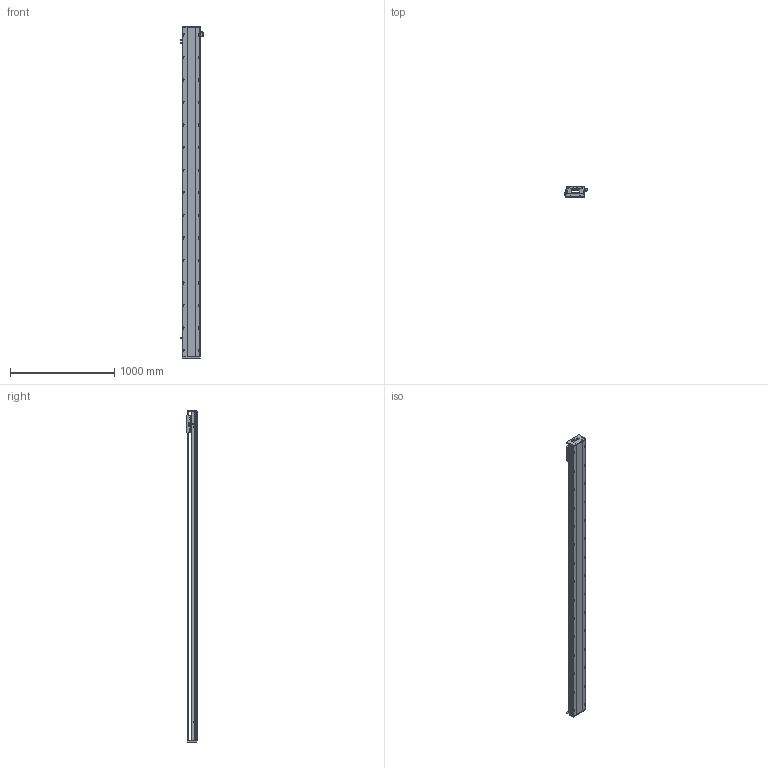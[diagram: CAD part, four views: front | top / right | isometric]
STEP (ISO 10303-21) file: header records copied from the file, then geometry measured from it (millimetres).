
FILE_DESCRIPTION (( 'STEP AP203' ), '1' );
FILE_NAME ('SKR17S-C1-S2910（简）.STEP', '2022-09-29T06:50:39', ( '' ), ( '' ), 'SwSTEP 2.0', 'SolidWorks 2018', '' );
FILE_SCHEMA (( 'CONFIG_CONTROL_DESIGN' ));
Length unit declared in the file: millimetre
Products named in the file (8): SIKO棠掑; SKR17底座-C1-S2910（简); EE-SX672; 棠掑假蚾輸; SKR17S-C1-S2910（简）; SKR17滑台-170L（简）; 感应片（SKR12S-14S-17S）; SKR17耜啣
Assembly tree (10 placements, depth 2):
  SKR17S-C1-S2910（简）
    SKR17底座-C1-S2910（简)
    SKR17滑台-170L（简）
    SIKO棠掑
    EE-SX672  x3
    SKR17耜啣  x2
    棠掑假蚾輸
    感应片（SKR12S-14S-17S）
Bounding box: 212.7 x 97 x 3180 mm (x, y, z)
Volume: 24078932 mm3; surface area: 2877936.1 mm2
Topology: 11 solids, 11 shells, 1521 faces, 4257 edges, 2736 vertices
Faces by surface type: cylinder 776, plane 593, cone 152
Entity records: 48774 total; most frequent: CARTESIAN_POINT 13961, ORIENTED_EDGE 7470, DIRECTION 6652, EDGE_CURVE 3735, VERTEX_POINT 2440, AXIS2_PLACEMENT_3D 2379, LINE 1894, VECTOR 1894
